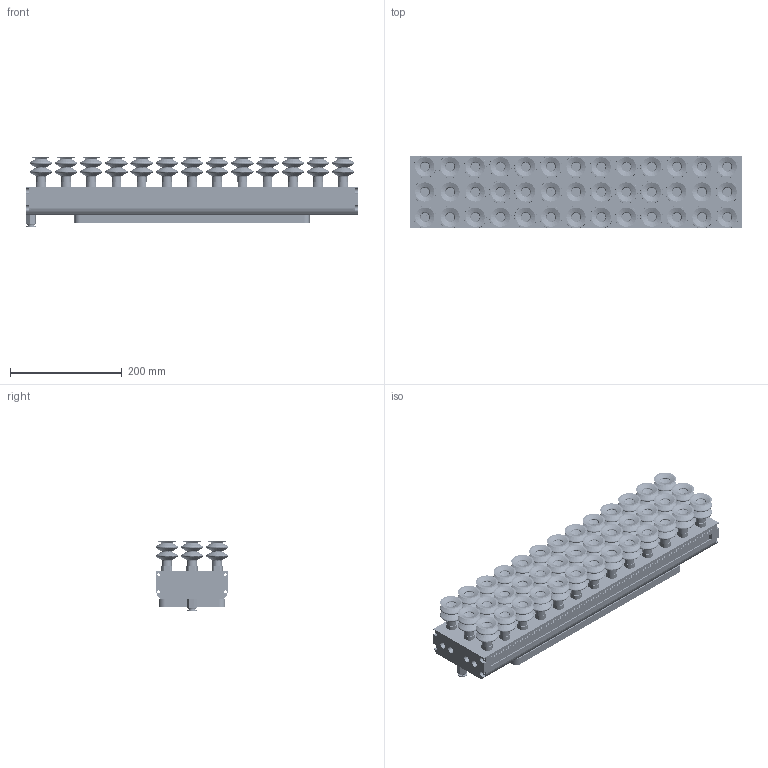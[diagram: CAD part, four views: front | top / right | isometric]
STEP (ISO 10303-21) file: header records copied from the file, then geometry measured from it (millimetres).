
FILE_DESCRIPTION (( 'STEP AP203' ), '1' );
FILE_NAME ('生态套件-码垛工作站-大吸盘组件.STEP', '2024-11-08T08:52:01', ( '' ), ( '' ), 'SwSTEP 2.0', 'SolidWorks 2018', '' );
FILE_SCHEMA (( 'CONFIG_CONTROL_DESIGN' ));
Products named in the file (4): 8.0.00.8230216; 3.1.15.2014649; 生态套件-码垛工作站-大吸盘组件; 3.1.07.2014800
Assembly tree (3 placements, depth 2):
  生态套件-码垛工作站-大吸盘组件
    8.0.00.8230216
    3.1.07.2014800
    3.1.15.2014649
Bounding box: 593.05 x 130.35 x 126.5 mm (x, y, z)
Volume: 474211 mm3; surface area: 1274865.5 mm2
Topology: 2 solids, 92 shells, 3235 faces, 7483 edges, 4552 vertices
Faces by surface type: bspline 1118, cone 796, cylinder 676, plane 627, torus 18
Entity records: 169182 total; most frequent: CARTESIAN_POINT 96384, DIRECTION 16128, ORIENTED_EDGE 14857, EDGE_CURVE 7463, AXIS2_PLACEMENT_3D 6900, CIRCLE 4777, VERTEX_POINT 4544, EDGE_LOOP 3622
